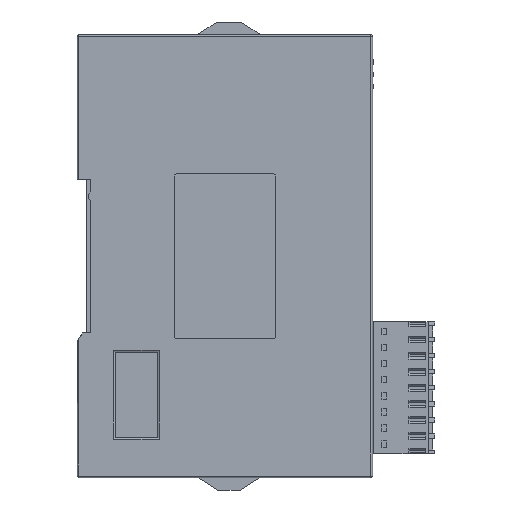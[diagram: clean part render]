
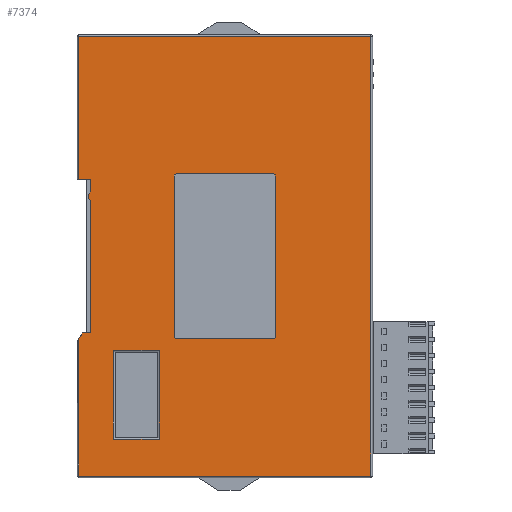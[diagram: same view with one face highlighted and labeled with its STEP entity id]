
A CAD part, left-side view. The second image highlights one B-rep face of the part: STEP entity #7374.
In plain terms, the highlighted planar face has unit normal (-1, 0, 0).
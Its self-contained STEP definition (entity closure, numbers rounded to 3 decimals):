
#7374=ADVANCED_FACE('',(#19761,#19763,#19765),#19767,.T.);
#19761=FACE_BOUND('',#19762,.T.);
#19762=EDGE_LOOP('',(#28537,#28538,#28539,#28540,#28541,#28542,#28543,#28544,#28545,
#28546,#28547));
#19763=FACE_BOUND('',#19764,.T.);
#19764=EDGE_LOOP('',(#28548,#28549,#28550,#28551,#28552,#28553,#28554,#28555));
#19765=FACE_BOUND('',#19766,.T.);
#19766=EDGE_LOOP('',(#28556,#28557,#28558,#28559));
#19767=PLANE('',#19768);
#19768=AXIS2_PLACEMENT_3D('',#19769,#19770,#19771);
#19769=CARTESIAN_POINT('',(-345.903,-44.348,173.566));
#19770=DIRECTION('',(-1.,0.,0.));
#19771=DIRECTION('',(0.,0.,1.));
#28537=ORIENTED_EDGE('',*,*,#34922,.F.);
#28538=ORIENTED_EDGE('',*,*,#34923,.F.);
#28539=ORIENTED_EDGE('',*,*,#34924,.T.);
#28540=ORIENTED_EDGE('',*,*,#34925,.T.);
#28541=ORIENTED_EDGE('',*,*,#34926,.T.);
#28542=ORIENTED_EDGE('',*,*,#34927,.T.);
#28543=ORIENTED_EDGE('',*,*,#34928,.T.);
#28544=ORIENTED_EDGE('',*,*,#34929,.F.);
#28545=ORIENTED_EDGE('',*,*,#34930,.F.);
#28546=ORIENTED_EDGE('',*,*,#34931,.F.);
#28547=ORIENTED_EDGE('',*,*,#34275,.F.);
#28548=ORIENTED_EDGE('',*,*,#34932,.F.);
#28549=ORIENTED_EDGE('',*,*,#34933,.F.);
#28550=ORIENTED_EDGE('',*,*,#34934,.F.);
#28551=ORIENTED_EDGE('',*,*,#34935,.F.);
#28552=ORIENTED_EDGE('',*,*,#34936,.F.);
#28553=ORIENTED_EDGE('',*,*,#34937,.F.);
#28554=ORIENTED_EDGE('',*,*,#34938,.F.);
#28555=ORIENTED_EDGE('',*,*,#34939,.F.);
#28556=ORIENTED_EDGE('',*,*,#34940,.F.);
#28557=ORIENTED_EDGE('',*,*,#34941,.F.);
#28558=ORIENTED_EDGE('',*,*,#34942,.F.);
#28559=ORIENTED_EDGE('',*,*,#34943,.F.);
#34275=EDGE_CURVE('',#41132,#41130,#41134,.T.);
#34922=EDGE_CURVE('',#42173,#41132,#42174,.T.);
#34923=EDGE_CURVE('',#42175,#42173,#42176,.T.);
#34924=EDGE_CURVE('',#42175,#42177,#42178,.T.);
#34925=EDGE_CURVE('',#42177,#42179,#42180,.T.);
#34926=EDGE_CURVE('',#42179,#42181,#42182,.T.);
#34927=EDGE_CURVE('',#42181,#42183,#42184,.T.);
#34928=EDGE_CURVE('',#42183,#42185,#42186,.T.);
#34929=EDGE_CURVE('',#42187,#42185,#42188,.T.);
#34930=EDGE_CURVE('',#42189,#42187,#42190,.T.);
#34931=EDGE_CURVE('',#41130,#42189,#42191,.T.);
#34932=EDGE_CURVE('',#42192,#42193,#42194,.T.);
#34933=EDGE_CURVE('',#42195,#42192,#42196,.T.);
#34934=EDGE_CURVE('',#42197,#42195,#42198,.T.);
#34935=EDGE_CURVE('',#42199,#42197,#42200,.T.);
#34936=EDGE_CURVE('',#42201,#42199,#42202,.T.);
#34937=EDGE_CURVE('',#42203,#42201,#42204,.T.);
#34938=EDGE_CURVE('',#42205,#42203,#42206,.T.);
#34939=EDGE_CURVE('',#42193,#42205,#42207,.T.);
#34940=EDGE_CURVE('',#42208,#42209,#42210,.T.);
#34941=EDGE_CURVE('',#42211,#42208,#42212,.T.);
#34942=EDGE_CURVE('',#42213,#42211,#42214,.T.);
#34943=EDGE_CURVE('',#42209,#42213,#42215,.T.);
#41130=VERTEX_POINT('',#51423);
#41132=VERTEX_POINT('',#51428);
#41134=LINE('',#51433,#51434);
#42173=VERTEX_POINT('',#55870);
#42174=LINE('',#55871,#55872);
#42175=VERTEX_POINT('',#55874);
#42176=LINE('',#55875,#55876);
#42177=VERTEX_POINT('',#55878);
#42178=LINE('',#55879,#55880);
#42179=VERTEX_POINT('',#55882);
#42180=LINE('',#55883,#55884);
#42181=VERTEX_POINT('',#55886);
#42182=CIRCLE('',#55887,2.);
#42183=VERTEX_POINT('',#55891);
#42184=LINE('',#55892,#55893);
#42185=VERTEX_POINT('',#55895);
#42186=LINE('',#55896,#55897);
#42187=VERTEX_POINT('',#55899);
#42188=LINE('',#55900,#55901);
#42189=VERTEX_POINT('',#55903);
#42190=LINE('',#55904,#55905);
#42191=LINE('',#55907,#55908);
#42192=VERTEX_POINT('',#55910);
#42193=VERTEX_POINT('',#55911);
#42194=LINE('',#55912,#55913);
#42195=VERTEX_POINT('',#55915);
#42196=CIRCLE('',#55916,0.5);
#42197=VERTEX_POINT('',#55920);
#42198=LINE('',#55921,#55922);
#42199=VERTEX_POINT('',#55924);
#42200=CIRCLE('',#55925,0.5);
#42201=VERTEX_POINT('',#55929);
#42202=LINE('',#55930,#55931);
#42203=VERTEX_POINT('',#55933);
#42204=CIRCLE('',#55934,0.5);
#42205=VERTEX_POINT('',#55938);
#42206=LINE('',#55939,#55940);
#42207=CIRCLE('',#55942,0.5);
#42208=VERTEX_POINT('',#55946);
#42209=VERTEX_POINT('',#55947);
#42210=LINE('',#55948,#55949);
#42211=VERTEX_POINT('',#55951);
#42212=LINE('',#55952,#55953);
#42213=VERTEX_POINT('',#55955);
#42214=LINE('',#55956,#55957);
#42215=LINE('',#55959,#55960);
#51423=CARTESIAN_POINT('',(-345.903,-120.48,183.998));
#51428=CARTESIAN_POINT('',(-345.903,-120.48,288.198));
#51433=CARTESIAN_POINT('',(-345.903,-120.48,288.198));
#51434=VECTOR('',#51435,1.);
#51435=DIRECTION('',(0.,0.,-1.));
#55870=CARTESIAN_POINT('',(-345.903,-51.28,288.198));
#55871=CARTESIAN_POINT('',(-345.903,-51.28,288.198));
#55872=VECTOR('',#55873,1.);
#55873=DIRECTION('',(0.,-1.,0.));
#55874=CARTESIAN_POINT('',(-345.903,-51.28,254.298));
#55875=CARTESIAN_POINT('',(-345.903,-51.28,254.298));
#55876=VECTOR('',#55877,1.);
#55877=DIRECTION('',(0.,0.,1.));
#55878=CARTESIAN_POINT('',(-345.903,-54.08,254.298));
#55879=CARTESIAN_POINT('',(-345.903,-51.28,254.298));
#55880=VECTOR('',#55881,1.);
#55881=DIRECTION('',(0.,-1.,0.));
#55882=CARTESIAN_POINT('',(-345.903,-54.08,251.62));
#55883=CARTESIAN_POINT('',(-345.903,-54.08,254.298));
#55884=VECTOR('',#55885,1.);
#55885=DIRECTION('',(0.,0.,-1.));
#55886=CARTESIAN_POINT('',(-345.903,-54.08,248.975));
#55887=AXIS2_PLACEMENT_3D('',#55888,#55889,#55890);
#55888=CARTESIAN_POINT('',(-345.903,-55.58,250.298));
#55889=DIRECTION('',(-1.,0.,0.));
#55890=DIRECTION('',(0.,0.75,0.661));
#55891=CARTESIAN_POINT('',(-345.903,-54.08,217.898));
#55892=CARTESIAN_POINT('',(-345.903,-54.08,248.975));
#55893=VECTOR('',#55894,1.);
#55894=DIRECTION('',(0.,0.,-1.));
#55895=CARTESIAN_POINT('',(-345.903,-52.08,217.898));
#55896=CARTESIAN_POINT('',(-345.903,-54.08,217.898));
#55897=VECTOR('',#55898,1.);
#55898=DIRECTION('',(0.,1.,0.));
#55899=CARTESIAN_POINT('',(-345.903,-51.28,216.564));
#55900=CARTESIAN_POINT('',(-345.903,-51.28,216.564));
#55901=VECTOR('',#55902,1.);
#55902=DIRECTION('',(0.,-0.515,0.857));
#55903=CARTESIAN_POINT('',(-345.903,-51.28,183.998));
#55904=CARTESIAN_POINT('',(-345.903,-51.28,183.998));
#55905=VECTOR('',#55906,1.);
#55906=DIRECTION('',(0.,0.,1.));
#55907=CARTESIAN_POINT('',(-345.903,-120.48,183.998));
#55908=VECTOR('',#55909,1.);
#55909=DIRECTION('',(0.,1.,0.));
#55910=CARTESIAN_POINT('',(-345.903,-97.38,255.598));
#55911=CARTESIAN_POINT('',(-345.903,-74.38,255.598));
#55912=CARTESIAN_POINT('',(-345.903,-97.38,255.598));
#55913=VECTOR('',#55914,1.);
#55914=DIRECTION('',(0.,1.,0.));
#55915=CARTESIAN_POINT('',(-345.903,-97.88,255.098));
#55916=AXIS2_PLACEMENT_3D('',#55917,#55918,#55919);
#55917=CARTESIAN_POINT('',(-345.903,-97.38,255.098));
#55918=DIRECTION('',(-1.,0.,0.));
#55919=DIRECTION('',(0.,-1.,0.));
#55920=CARTESIAN_POINT('',(-345.903,-97.88,217.098));
#55921=CARTESIAN_POINT('',(-345.903,-97.88,217.098));
#55922=VECTOR('',#55923,1.);
#55923=DIRECTION('',(0.,0.,1.));
#55924=CARTESIAN_POINT('',(-345.903,-97.38,216.598));
#55925=AXIS2_PLACEMENT_3D('',#55926,#55927,#55928);
#55926=CARTESIAN_POINT('',(-345.903,-97.38,217.098));
#55927=DIRECTION('',(-1.,0.,0.));
#55928=DIRECTION('',(0.,0.,-1.));
#55929=CARTESIAN_POINT('',(-345.903,-74.38,216.598));
#55930=CARTESIAN_POINT('',(-345.903,-74.38,216.598));
#55931=VECTOR('',#55932,1.);
#55932=DIRECTION('',(0.,-1.,0.));
#55933=CARTESIAN_POINT('',(-345.903,-73.88,217.098));
#55934=AXIS2_PLACEMENT_3D('',#55935,#55936,#55937);
#55935=CARTESIAN_POINT('',(-345.903,-74.38,217.098));
#55936=DIRECTION('',(-1.,0.,0.));
#55937=DIRECTION('',(0.,1.,0.));
#55938=CARTESIAN_POINT('',(-345.903,-73.88,255.098));
#55939=CARTESIAN_POINT('',(-345.903,-73.88,255.098));
#55940=VECTOR('',#55941,1.);
#55941=DIRECTION('',(0.,0.,-1.));
#55942=AXIS2_PLACEMENT_3D('',#55943,#55944,#55945);
#55943=CARTESIAN_POINT('',(-345.903,-74.38,255.098));
#55944=DIRECTION('',(-1.,0.,0.));
#55945=DIRECTION('',(0.,0.,1.));
#55946=CARTESIAN_POINT('',(-345.903,-70.34,192.748));
#55947=CARTESIAN_POINT('',(-345.903,-70.34,213.748));
#55948=CARTESIAN_POINT('',(-345.903,-70.34,192.748));
#55949=VECTOR('',#55950,1.);
#55950=DIRECTION('',(0.,0.,1.));
#55951=CARTESIAN_POINT('',(-345.903,-59.45,192.748));
#55952=CARTESIAN_POINT('',(-345.903,-59.45,192.748));
#55953=VECTOR('',#55954,1.);
#55954=DIRECTION('',(0.,-1.,0.));
#55955=CARTESIAN_POINT('',(-345.903,-59.45,213.748));
#55956=CARTESIAN_POINT('',(-345.903,-59.45,213.748));
#55957=VECTOR('',#55958,1.);
#55958=DIRECTION('',(0.,0.,-1.));
#55959=CARTESIAN_POINT('',(-345.903,-70.34,213.748));
#55960=VECTOR('',#55961,1.);
#55961=DIRECTION('',(0.,1.,0.));
